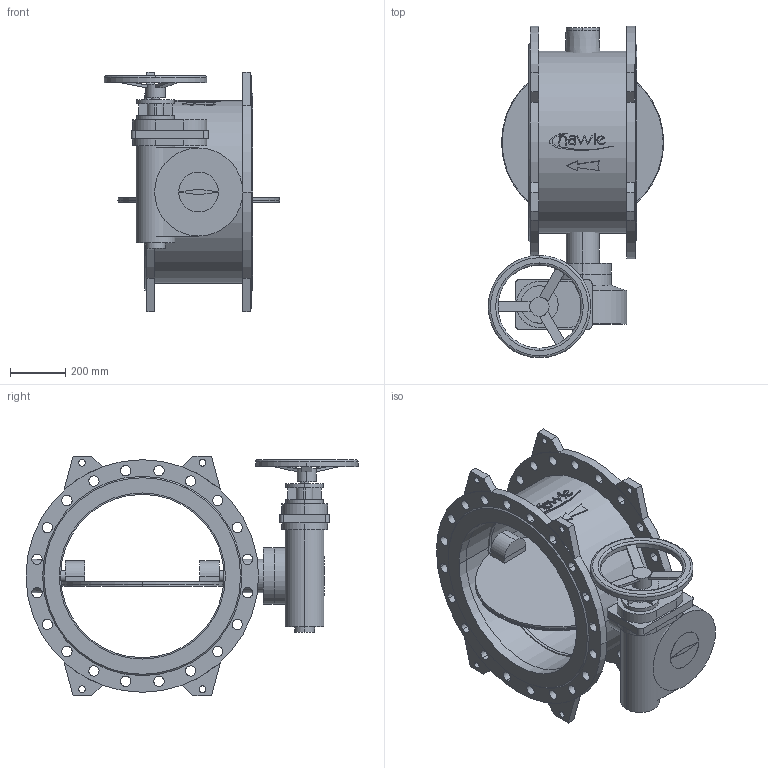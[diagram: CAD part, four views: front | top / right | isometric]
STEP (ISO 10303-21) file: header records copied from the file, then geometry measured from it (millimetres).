
FILE_DESCRIPTION(('STEP AP214'),'1');
FILE_NAME('S:/EK/USER/CAT6/3DHomepage_27-04-2012/neu_08-01-2013/9881K/9881K_PN16_DN600_7800.STP','2013-03-11T15:35:38',(' '),(' '),'Spatial InterOp 3D',' ',' ');
FILE_SCHEMA(('automotive_design'));
Length unit declared in the file: millimetre
Products named in the file (52): 3D-Objekt
Bounding box: 634 x 1199 x 864 mm (x, y, z)
Volume: 75000240.5 mm3; surface area: 5669481.2 mm2
Topology: 52 solids, 52 shells, 455 faces, 1046 edges, 698 vertices
Faces by surface type: plane 228, cylinder 215, cone 8, torus 4
Entity records: 18118 total; most frequent: DIRECTION 2536, CARTESIAN_POINT 2251, ORIENTED_EDGE 2092, EDGE_CURVE 1046, AXIS2_PLACEMENT_3D 983, VERTEX_POINT 698, EDGE_LOOP 572, LINE 570
